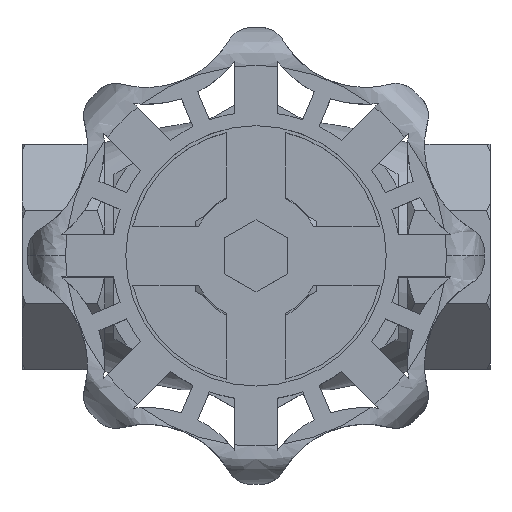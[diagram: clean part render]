
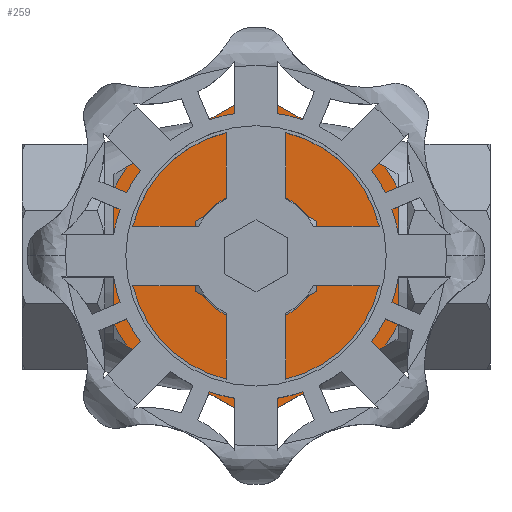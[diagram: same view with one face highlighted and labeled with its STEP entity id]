
A CAD part, top view. The second image highlights one B-rep face of the part: STEP entity #259.
In plain terms, the highlighted planar face has unit normal (0, 0, 1).
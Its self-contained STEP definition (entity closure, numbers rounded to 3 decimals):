
#259=ADVANCED_FACE('',(#2525,#2526),#2524,.F.);
#2524=PLANE('',#4265);
#2525=FACE_OUTER_BOUND('',#4266,.T.);
#2526=FACE_BOUND('',#4267,.T.);
#4262=CARTESIAN_POINT('',(49.2,-54.596,74.5));
#4263=DIRECTION('',(0.,0.,-1.));
#4264=DIRECTION('',(-1.,0.,0.));
#4265=AXIS2_PLACEMENT_3D('',#4262,#4263,#4264);
#4266=EDGE_LOOP('',(#5840,#5841,#5842,#5843,#5844,#5845,#5846,#5847,#5848,#5849,#5850,#5851));
#4267=EDGE_LOOP('',(#5852,#5853));
#5840=ORIENTED_EDGE('',*,*,#6806,.F.);
#5841=ORIENTED_EDGE('',*,*,#6846,.F.);
#5842=ORIENTED_EDGE('',*,*,#6796,.F.);
#5843=ORIENTED_EDGE('',*,*,#6247,.F.);
#5844=ORIENTED_EDGE('',*,*,#6300,.F.);
#5845=ORIENTED_EDGE('',*,*,#6298,.F.);
#5846=ORIENTED_EDGE('',*,*,#6801,.F.);
#5847=ORIENTED_EDGE('',*,*,#6847,.F.);
#5848=ORIENTED_EDGE('',*,*,#6803,.F.);
#5849=ORIENTED_EDGE('',*,*,#6585,.F.);
#5850=ORIENTED_EDGE('',*,*,#6804,.F.);
#5851=ORIENTED_EDGE('',*,*,#6307,.F.);
#5852=ORIENTED_EDGE('',*,*,#6848,.T.);
#5853=ORIENTED_EDGE('',*,*,#6849,.T.);
#6247=EDGE_CURVE('',#7537,#7544,#7545,.T.);
#6298=EDGE_CURVE('',#7867,#7874,#7875,.T.);
#6300=EDGE_CURVE('',#7874,#7537,#7887,.T.);
#6307=EDGE_CURVE('',#7929,#7936,#7937,.T.);
#6585=EDGE_CURVE('',#9829,#9836,#9837,.T.);
#6796=EDGE_CURVE('',#7544,#11201,#11202,.T.);
#6801=EDGE_CURVE('',#11228,#7867,#11235,.T.);
#6803=EDGE_CURVE('',#9836,#11241,#11248,.T.);
#6804=EDGE_CURVE('',#7936,#9829,#11254,.T.);
#6806=EDGE_CURVE('',#11260,#7929,#11267,.T.);
#6846=EDGE_CURVE('',#11201,#11260,#11520,.T.);
#6847=EDGE_CURVE('',#11241,#11228,#11526,.T.);
#6848=EDGE_CURVE('',#11532,#11533,#11534,.T.);
#6849=EDGE_CURVE('',#11533,#11532,#11540,.T.);
#7537=VERTEX_POINT('',#12499);
#7544=VERTEX_POINT('',#12504);
#7545=LINE('',#12505,#12506);
#7867=VERTEX_POINT('',#12737);
#7874=VERTEX_POINT('',#12742);
#7875=LINE('',#12743,#12744);
#7887=CIRCLE('',#12753,45.343);
#7929=VERTEX_POINT('',#12777);
#7936=VERTEX_POINT('',#12782);
#7937=LINE('',#12783,#12784);
#9829=VERTEX_POINT('',#14491);
#9836=VERTEX_POINT('',#14496);
#9837=LINE('',#14497,#14498);
#11201=VERTEX_POINT('',#15569);
#11202=CIRCLE('',#15573,45.343);
#11228=VERTEX_POINT('',#15588);
#11235=CIRCLE('',#15596,45.343);
#11241=VERTEX_POINT('',#15597);
#11248=CIRCLE('',#15605,45.343);
#11254=CIRCLE('',#15609,45.343);
#11260=VERTEX_POINT('',#15610);
#11267=CIRCLE('',#15618,45.343);
#11520=LINE('',#15797,#15798);
#11526=LINE('',#15800,#15801);
#11532=VERTEX_POINT('',#15803);
#11533=VERTEX_POINT('',#15804);
#11534=CIRCLE('',#15808,19.);
#11540=CIRCLE('',#15812,19.);
#12499=CARTESIAN_POINT('',(-37.27,25.825,74.5));
#12504=CARTESIAN_POINT('',(-3.73,45.189,74.5));
#12505=CARTESIAN_POINT('',(-37.27,25.825,74.5));
#12506=VECTOR('',#12507,38.728);
#12507=DIRECTION('',(0.866,0.5,0.));
#12737=CARTESIAN_POINT('',(-41.,-19.364,74.5));
#12742=CARTESIAN_POINT('',(-41.,19.364,74.5));
#12743=CARTESIAN_POINT('',(-41.,-19.364,74.5));
#12744=VECTOR('',#12745,38.728);
#12745=DIRECTION('',(0.,1.,0.));
#12750=CARTESIAN_POINT('',(0.,0.,74.5));
#12751=DIRECTION('',(0.,0.,-1.));
#12752=DIRECTION('',(1.,0.,0.));
#12753=AXIS2_PLACEMENT_3D('',#12750,#12751,#12752);
#12777=CARTESIAN_POINT('',(41.,19.364,74.5));
#12782=CARTESIAN_POINT('',(41.,-19.364,74.5));
#12783=CARTESIAN_POINT('',(41.,19.364,74.5));
#12784=VECTOR('',#12785,38.728);
#12785=DIRECTION('',(0.,-1.,0.));
#14491=CARTESIAN_POINT('',(37.27,-25.825,74.5));
#14496=CARTESIAN_POINT('',(3.73,-45.189,74.5));
#14497=CARTESIAN_POINT('',(37.27,-25.825,74.5));
#14498=VECTOR('',#14499,38.728);
#14499=DIRECTION('',(-0.866,-0.5,0.));
#15569=CARTESIAN_POINT('',(3.73,45.189,74.5));
#15570=CARTESIAN_POINT('',(0.,0.,74.5));
#15571=DIRECTION('',(0.,0.,-1.));
#15572=DIRECTION('',(1.,0.,0.));
#15573=AXIS2_PLACEMENT_3D('',#15570,#15571,#15572);
#15588=CARTESIAN_POINT('',(-37.27,-25.825,74.5));
#15593=CARTESIAN_POINT('',(0.,0.,74.5));
#15594=DIRECTION('',(0.,0.,-1.));
#15595=DIRECTION('',(1.,0.,0.));
#15596=AXIS2_PLACEMENT_3D('',#15593,#15594,#15595);
#15597=CARTESIAN_POINT('',(-3.73,-45.189,74.5));
#15602=CARTESIAN_POINT('',(0.,0.,74.5));
#15603=DIRECTION('',(0.,0.,-1.));
#15604=DIRECTION('',(1.,0.,0.));
#15605=AXIS2_PLACEMENT_3D('',#15602,#15603,#15604);
#15606=CARTESIAN_POINT('',(0.,0.,74.5));
#15607=DIRECTION('',(0.,0.,-1.));
#15608=DIRECTION('',(1.,0.,0.));
#15609=AXIS2_PLACEMENT_3D('',#15606,#15607,#15608);
#15610=CARTESIAN_POINT('',(37.27,25.825,74.5));
#15615=CARTESIAN_POINT('',(0.,0.,74.5));
#15616=DIRECTION('',(0.,0.,-1.));
#15617=DIRECTION('',(1.,0.,0.));
#15618=AXIS2_PLACEMENT_3D('',#15615,#15616,#15617);
#15797=CARTESIAN_POINT('',(3.73,45.189,74.5));
#15798=VECTOR('',#15799,38.728);
#15799=DIRECTION('',(0.866,-0.5,0.));
#15800=CARTESIAN_POINT('',(-3.73,-45.189,74.5));
#15801=VECTOR('',#15802,38.728);
#15802=DIRECTION('',(-0.866,0.5,0.));
#15803=CARTESIAN_POINT('',(-19.,0.,74.5));
#15804=CARTESIAN_POINT('',(19.,0.,74.5));
#15805=CARTESIAN_POINT('',(0.,0.,74.5));
#15806=DIRECTION('',(0.,0.,-1.));
#15807=DIRECTION('',(-1.,0.,0.));
#15808=AXIS2_PLACEMENT_3D('',#15805,#15806,#15807);
#15809=CARTESIAN_POINT('',(0.,0.,74.5));
#15810=DIRECTION('',(0.,0.,-1.));
#15811=DIRECTION('',(-1.,0.,0.));
#15812=AXIS2_PLACEMENT_3D('',#15809,#15810,#15811);
